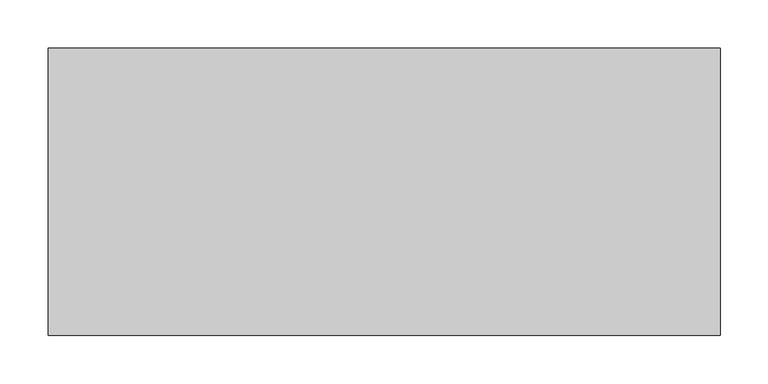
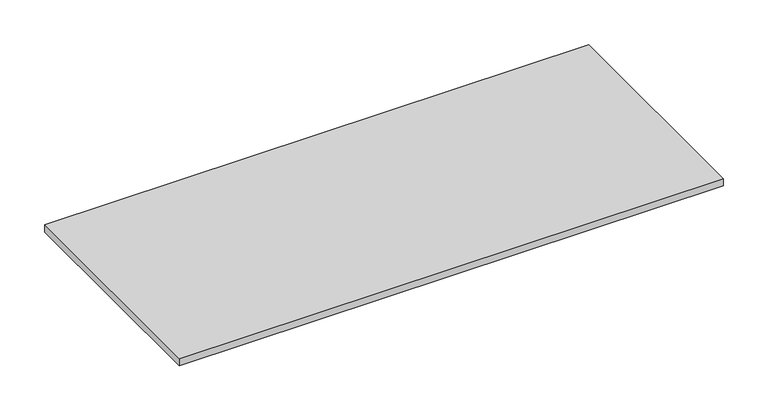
"""IFC4 building model written with IfcOpenShell, lengths in millimetres: proxy geometry, Família5 : Família5."""

from ifc_helpers import new_model, si_unit, origin, origin_with_axes, place, context, project, spatial, polyline, outline, extrude, source, transform, mapped, element, save


def generic_models_b61af71a(model_context):
    return source(origin(), model_context, "Body", "SweptSolid", [
        extrude(outline(polyline([(350.0, -150.0), (-350.0, -150.0), (-350.0, 150.0), (350.0, 150.0), (350.0, -150.0)])), origin_with_axes(), (0.0, 0.0, 1.0), 10.0),
    ])


if __name__ == "__main__":
    model = new_model("IFC4")
    model_context = context("Model", 3, world=origin())
    ifc_project = project(units=[si_unit("LENGTHUNIT", "METRE", prefix="MILLI")], contexts=[model_context])
    site = spatial("IfcSite", under=ifc_project)
    building = spatial("IfcBuilding", under=site)
    placement = place(None, origin())
    generic_models_shape = generic_models_b61af71a(model_context)
    element("IfcBuildingElementProxy", 1, Name="Família5 : Família5", ObjectType="Família5 : Família5", at=placement, inside=building, context=model_context, shape_type="MappedRepresentation", body=[
        mapped(generic_models_shape, transform((0.0, 0.0, 0.0), x_axis=(1.0, 0.0, 0.0), y_axis=(0.0, 1.0, 0.0), z_axis=(0.0, 0.0, 1.0))),
    ])
    save(model, "model.ifc")
